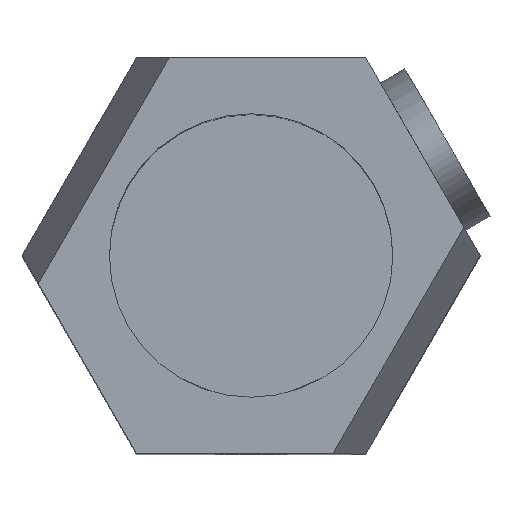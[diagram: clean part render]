
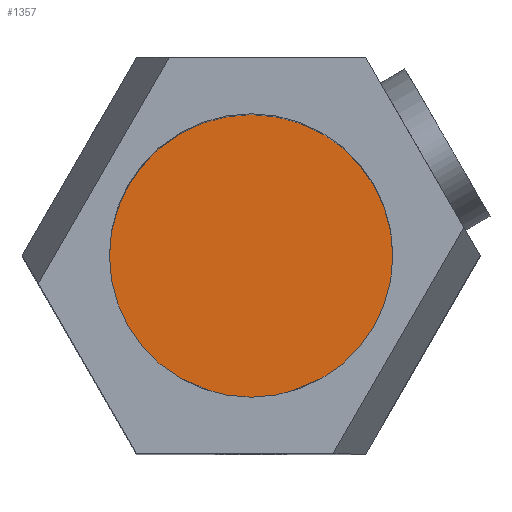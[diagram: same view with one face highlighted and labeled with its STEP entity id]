
A CAD part, top view. The second image highlights one B-rep face of the part: STEP entity #1357.
In plain terms, the highlighted planar face has unit normal (0, 0, 1).
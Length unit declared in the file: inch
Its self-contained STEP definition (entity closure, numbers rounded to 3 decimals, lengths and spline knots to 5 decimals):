
#166=CARTESIAN_POINT('',(-0.25,0.43301,-1.73));
#167=VERTEX_POINT('',#166);
#168=CARTESIAN_POINT('',(0.0,0.0,-1.73));
#169=DIRECTION('',(0.0,0.0,1.0));
#170=DIRECTION('',(-0.5,0.866,0.0));
#171=AXIS2_PLACEMENT_3D('',#168,#169,#170);
#172=CIRCLE('',#171,0.5);
#173=EDGE_CURVE('',#167,#167,#172,.T.);
#1349=CARTESIAN_POINT('',(0.0,0.0,-1.73));
#1350=DIRECTION('',(0.0,0.0,1.0));
#1351=DIRECTION('',(-0.5,0.866,0.0));
#1352=AXIS2_PLACEMENT_3D('',#1349,#1350,#1351);
#1353=PLANE('',#1352);
#1354=ORIENTED_EDGE('',*,*,#173,.T.);
#1355=EDGE_LOOP('',(#1354));
#1356=FACE_OUTER_BOUND('',#1355,.T.);
#1357=ADVANCED_FACE('',(#1356),#1353,.T.);
